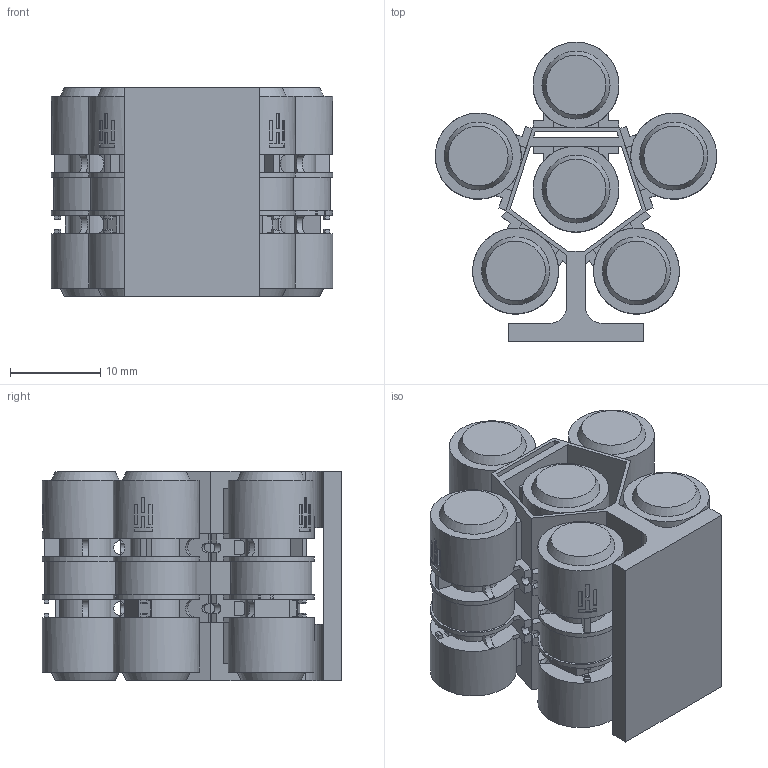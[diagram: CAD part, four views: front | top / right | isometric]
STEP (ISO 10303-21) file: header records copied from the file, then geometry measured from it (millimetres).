
FILE_DESCRIPTION(/* description */ (''),/* implementation_level */ '2;1');
FILE_NAME(/* name */ '6x drake pentagon v5.step',/* time_stamp */ '2023-06-06T15:50:37-04:00',/* author */ (''),/* organization */ (''),/* preprocessor_version */ 'ST-DEVELOPER v19.2',/* originating_system */ 'Autodesk Translation Framework v12.6.0.85',/* authorisation */ '');
FILE_SCHEMA (('AUTOMOTIVE_DESIGN { 1 0 10303 214 3 1 1 }'));
Length unit declared in the file: millimetre
Products named in the file (5): 6x drake pentagon; TacHammer - Drake Volume; TacHammer - Drake Volume_1; Volume_Env; 6x holder
Assembly tree (9 placements, depth 3):
  6x drake pentagon
    TacHammer - Drake Volume
      Volume_Env
    TacHammer - Drake Volume_1  x5
      Volume_Env
    6x holder
Bounding box: 31.1 x 33.11 x 23.2 mm (x, y, z)
Volume: 10082.4 mm3; surface area: 10124.6 mm2
Topology: 7 solids, 7 shells, 1090 faces, 3000 edges, 1940 vertices
Faces by surface type: plane 768, cylinder 298, cone 12, torus 12
Full cylindrical faces by diameter (mm): 9 x6, 9.5 x12
Entity records: 6932 total; most frequent: CARTESIAN_POINT 1208, DIRECTION 1171, ORIENTED_EDGE 1170, EDGE_CURVE 585, LINE 445, VECTOR 445, VERTEX_POINT 380, AXIS2_PLACEMENT_3D 363
